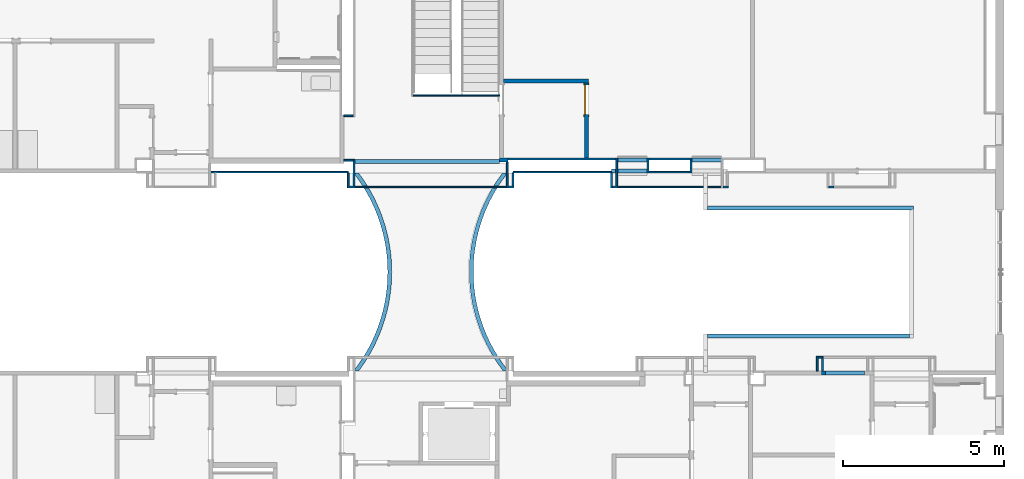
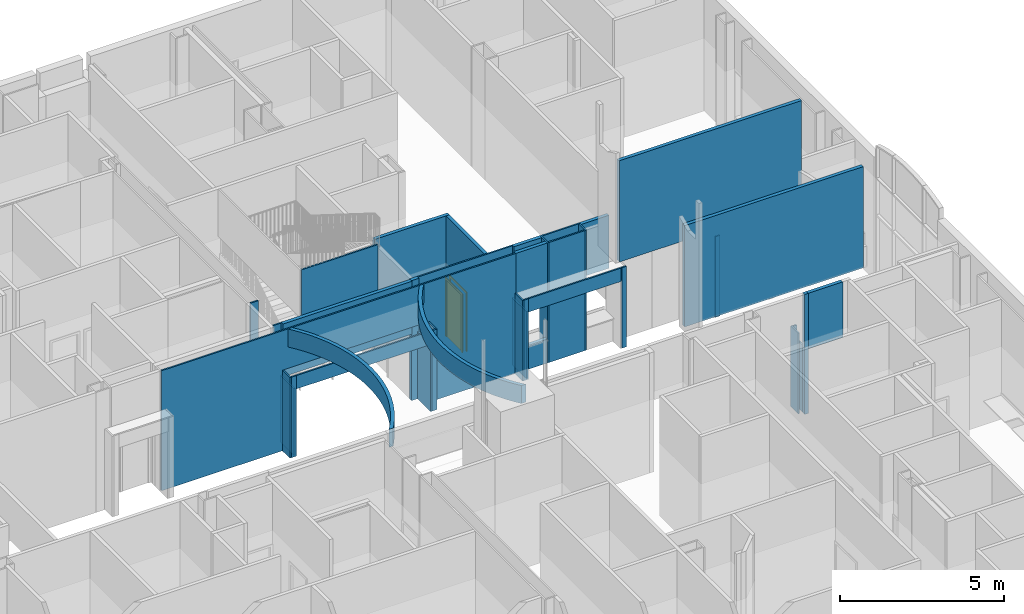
# One storey, part 37 of 87: 39 walls, 1 door, 2 openings.
"""IFC2X3 building model written with IfcOpenShell, lengths in metres."""

import ifcopenshell
import ifcopenshell.guid

model = None  # the IFC model being written
_history = None  # IfcOwnerHistory: only IFC2X3 demands one
_inside = {}  # id of a spatial element -> (the spatial element, [elements in it])
_under = {}  # id of a project, library or spatial element -> (it, [spatial elements below it])
_declared = {}  # id of a project -> (the project, [libraries it declares])
_typed = {}  # id of a type object -> (the type object, [elements of that type])
_made_of = {}  # id of a material, layer set ... -> (it, [elements and type objects made of it])


def new_model(schema):
    """Start an empty IFC model of exactly this schema.

    Asked for "IFC4X3", IfcOpenShell would pick the latest addendum, in which some entities
    have other attributes; the version numbers below select the first issue.
    IFC2X3 requires an IfcOwnerHistory on every rooted entity: one is made here for all.
    """
    global model, _history
    if schema == "IFC4X3":
        model = ifcopenshell.file(schema_version=(4, 3, 0, 0))
    else:
        model = ifcopenshell.file(schema=schema)
    _inside.clear()
    _under.clear()
    _declared.clear()
    _typed.clear()
    _made_of.clear()
    _history = None
    if model.schema == "IFC2X3":
        org = make("IfcOrganization", Name="unknown")
        user = make(
            "IfcPersonAndOrganization",
            ThePerson=make("IfcPerson", FamilyName="unknown"),
            TheOrganization=org,
        )
        app = make(
            "IfcApplication",
            ApplicationDeveloper=org,
            Version="unknown",
            ApplicationFullName="unknown",
            ApplicationIdentifier="unknown",
        )
        _history = make(
            "IfcOwnerHistory",
            OwningUser=user,
            OwningApplication=app,
            ChangeAction="ADDED",
            CreationDate=0,
        )
    return model


def make(cls, **values):
    """One entity of the class cls with the attributes given. An attribute that is None is left unset."""
    return model.create_entity(
        cls, **{name: value for name, value in values.items() if value is not None}
    )


def entity(cls, *values):
    """Any entity or typed value of the class cls, its attributes in the order of the schema. None: left unset."""
    e = model.create_entity(cls)
    for i, value in enumerate(values):
        if value is not None:
            e[i] = value
    return e


def rooted(cls, **values):
    """An entity with a GlobalId (a new one), such as an element, a storey or a relation."""
    return make(cls, GlobalId=ifcopenshell.guid.new(), OwnerHistory=_history, **values)


def si_unit(unit_type, name, prefix=None):
    """IfcSIUnit, for example si_unit("LENGTHUNIT", "METRE", prefix="MILLI")."""
    return make("IfcSIUnit", UnitType=unit_type, Prefix=prefix, Name=name)


def converted_unit(unit_type, name, factor, base, dimensions=None, offset=None):
    """IfcConversionBasedUnit, such as the inch: factor (a typed value) times the base unit."""
    return make(
        "IfcConversionBasedUnit"
        if offset is None
        else "IfcConversionBasedUnitWithOffset",
        ConversionOffset=offset,
        Dimensions=None
        if dimensions is None
        else entity("IfcDimensionalExponents", *dimensions),
        UnitType=unit_type,
        Name=name,
        ConversionFactor=make(
            "IfcMeasureWithUnit", ValueComponent=factor, UnitComponent=base
        ),
    )


def assignment(units):
    """IfcUnitAssignment: the units of a project."""
    return None if units is None else make("IfcUnitAssignment", Units=units)


def point(xyz):
    """IfcCartesianPoint."""
    return None if xyz is None else make("IfcCartesianPoint", Coordinates=xyz)


def direction(xyz):
    """IfcDirection."""
    return None if xyz is None else make("IfcDirection", DirectionRatios=xyz)


def frame(location, z_axis=None, x_axis=None):
    """IfcAxis2Placement3D, a coordinate frame: its origin and axes. An axis left out is left unset."""
    return make(
        "IfcAxis2Placement3D",
        Location=point(location),
        Axis=direction(z_axis),
        RefDirection=direction(x_axis),
    )


def frame_2d(location, x_axis=None):
    """IfcAxis2Placement2D, a coordinate frame in the plane: its origin and x axis."""
    return make(
        "IfcAxis2Placement2D", Location=point(location), RefDirection=direction(x_axis)
    )


def origin():
    """The frame at (0, 0, 0) with its axes left unset."""
    return frame((0.0, 0.0, 0.0))


def origin_2d_with_axis():
    """The frame at (0, 0) in the plane with the x axis (1, 0) written out."""
    return frame_2d((0.0, 0.0), x_axis=(1.0, 0.0))


def place(relative_to, where):
    """IfcLocalPlacement: puts the frame where relative to a parent placement (None: the world)."""
    return make(
        "IfcLocalPlacement", PlacementRelTo=relative_to, RelativePlacement=where
    )


def context(
    kind, dimensions, precision=None, world=None, true_north=None, identifier=None
):
    """IfcGeometricRepresentationContext, for example the 3D "Model" context."""
    return make(
        "IfcGeometricRepresentationContext",
        ContextIdentifier=identifier,
        ContextType=kind,
        CoordinateSpaceDimension=dimensions,
        Precision=precision,
        WorldCoordinateSystem=world,
        TrueNorth=true_north,
    )


def project(units=None, contexts=None):
    """IfcProject with its units and contexts."""
    return rooted(
        "IfcProject",
        Name="project",
        RepresentationContexts=contexts,
        UnitsInContext=assignment(units),
    )


def spatial(cls, under=None, at=None, **own):
    """A site, building, storey or space (cls), placed at a placement, below another one or the project."""
    s = rooted(cls, ObjectPlacement=at, **own)
    if under is not None:
        _under.setdefault(under.id(), (under, []))[1].append(s)
    return s


def polyline(points):
    """IfcPolyline through the points."""
    return make("IfcPolyline", Points=[point(p) for p in points])


def circle_curve(where, radius):
    """IfcCircle in the frame where."""
    return make("IfcCircle", Position=where, Radius=radius)


def parameter(value):
    """IfcParameterValue: where a trimmed curve begins or ends, as a parameter of its basis curve."""
    return model.create_entity("IfcParameterValue", value)


def trimmed(basis, trim1, trim2, sense, master):
    """IfcTrimmedCurve: the piece of a basis curve between two trims."""
    return make(
        "IfcTrimmedCurve",
        BasisCurve=basis,
        Trim1=trim1,
        Trim2=trim2,
        SenseAgreement=sense,
        MasterRepresentation=master,
    )


def segment(curve, same_sense, transition):
    """IfcCompositeCurveSegment."""
    return make(
        "IfcCompositeCurveSegment",
        Transition=transition,
        SameSense=same_sense,
        ParentCurve=curve,
    )


def composite_curve(segments, self_intersect=None):
    """IfcCompositeCurve: segments joined end to end."""
    return make("IfcCompositeCurve", Segments=segments, SelfIntersect=self_intersect)


def profile(cls, at=None, kind="AREA", **sizes):
    """A parametric profile (cls). Its sizes go by their IFC names, for example OverallWidth=200.0."""
    return make(cls, ProfileType=kind, Position=at, **sizes)


def rectangle(**sizes):
    """IfcRectangleProfileDef."""
    return profile("IfcRectangleProfileDef", **sizes)


def outline(outer, holes=None, kind="AREA"):
    """IfcArbitraryClosedProfileDef: a profile drawn as a closed curve; with holes, ...WithVoids."""
    if holes is None:
        return make("IfcArbitraryClosedProfileDef", ProfileType=kind, OuterCurve=outer)
    return make(
        "IfcArbitraryProfileDefWithVoids",
        ProfileType=kind,
        OuterCurve=outer,
        InnerCurves=holes,
    )


def extrude(swept, where, along, depth):
    """IfcExtrudedAreaSolid: the profile swept, set in the frame where, extruded along a direction by depth."""
    return make(
        "IfcExtrudedAreaSolid",
        SweptArea=swept,
        Position=where,
        ExtrudedDirection=direction(along),
        Depth=depth,
    )


def clip(a, b, op="DIFFERENCE"):
    """IfcBooleanClippingResult: the solid a cut by the half space b."""
    return make(
        "IfcBooleanClippingResult", Operator=op, FirstOperand=a, SecondOperand=b
    )


def halfspace(plane, agree):
    """IfcHalfSpaceSolid: all space on one side of the plane z = 0 of the frame plane."""
    return make(
        "IfcHalfSpaceSolid",
        BaseSurface=make("IfcPlane", Position=plane),
        AgreementFlag=agree,
    )


def shape(context_of_items, identifier, shape_type, items):
    """IfcShapeRepresentation: the items that make up one representation, for example the "Body"."""
    return make(
        "IfcShapeRepresentation",
        ContextOfItems=context_of_items,
        RepresentationIdentifier=identifier,
        RepresentationType=shape_type,
        Items=items,
    )


def source(mapping_origin, context_of_items, identifier, shape_type, items):
    """IfcRepresentationMap: a shape defined once, which mapped items show again and again."""
    return make(
        "IfcRepresentationMap",
        MappingOrigin=mapping_origin,
        MappedRepresentation=shape(context_of_items, identifier, shape_type, items),
    )


def transform(
    local_origin,
    x_axis=None,
    y_axis=None,
    z_axis=None,
    scale=None,
    scale2=None,
    scale3=None,
    uniform=True,
):
    """IfcCartesianTransformationOperator3D, or its non-uniform kind. x_axis, y_axis, z_axis: its Axis1, 2, 3."""
    if uniform:
        return make(
            "IfcCartesianTransformationOperator3D",
            Axis1=direction(x_axis),
            Axis2=direction(y_axis),
            LocalOrigin=point(local_origin),
            Scale=scale,
            Axis3=direction(z_axis),
        )
    return make(
        "IfcCartesianTransformationOperator3DnonUniform",
        Axis1=direction(x_axis),
        Axis2=direction(y_axis),
        LocalOrigin=point(local_origin),
        Scale=scale,
        Axis3=direction(z_axis),
        Scale2=scale2,
        Scale3=scale3,
    )


def mapped(mapping_source, mapping_target):
    """IfcMappedItem: shows the shape of a source again, moved by a transform."""
    return make(
        "IfcMappedItem", MappingSource=mapping_source, MappingTarget=mapping_target
    )


def material(Name=None, Category=None):
    """IfcMaterial."""
    return make("IfcMaterial", Name=Name, Category=Category)


def layer(
    of_material, thickness, ventilated=None, Name=None, Category=None, Priority=None
):
    """IfcMaterialLayer: one layer of a wall or slab, of a material (None: an air gap)."""
    return make(
        "IfcMaterialLayer",
        Material=of_material,
        LayerThickness=thickness,
        IsVentilated=ventilated,
        Name=Name,
        Category=Category,
        Priority=Priority,
    )


def layer_set(layers, Name=None):
    """IfcMaterialLayerSet."""
    return make("IfcMaterialLayerSet", MaterialLayers=layers, LayerSetName=Name)


def layer_usage(for_layer_set, set_direction, sense, offset, extent=None):
    """IfcMaterialLayerSetUsage: how a layer set lies in its element."""
    return make(
        "IfcMaterialLayerSetUsage",
        ForLayerSet=for_layer_set,
        LayerSetDirection=set_direction,
        DirectionSense=sense,
        OffsetFromReferenceLine=offset,
        ReferenceExtent=extent,
    )


def made_of(thing, what):
    """Note that an element or type object is made of a material, layer set ...; save() writes the relation."""
    if what is not None:
        _made_of.setdefault(what.id(), (what, []))[1].append(thing)
    return thing


def type_object(cls, material=None, **own):
    """A type object (cls), such as IfcWallType, which elements share."""
    return made_of(rooted(cls, **own), material)


def type_shapes(of_type, sources):
    """Give a type object the sources (RepresentationMaps) that its elements show as mapped items."""
    of_type.RepresentationMaps = sources


def element(
    cls,
    number,
    at=None,
    inside=None,
    cuts=None,
    type_object=None,
    material=None,
    context=None,
    identifier="Body",
    shape_type=None,
    held_by="IfcProductDefinitionShape",
    body=None,
    shapes=None,
    **own,
):
    """One element of the class cls, such as IfcWall. Its Tag is "e" and its number.

    at: its placement. inside: the storey or other place that contains it. cuts: it is an
    opening in that element (IfcRelVoidsElement). A single representation is given by context,
    identifier, shape_type and body (its items); several are given by shapes. held_by: the class
    of the entity that holds the representations. save() writes the other relations.
    """
    e = rooted(cls, Tag="e%d" % number, ObjectPlacement=at, **own)
    if body is not None:
        shapes = [shape(context, identifier, shape_type, body)]
    if shapes is not None:
        e.Representation = make(held_by, Representations=shapes)
    if inside is not None:
        _inside.setdefault(inside.id(), (inside, []))[1].append(e)
    if cuts is not None:
        rooted(
            "IfcRelVoidsElement", RelatingBuildingElement=cuts, RelatedOpeningElement=e
        )
    if type_object is not None:
        _typed.setdefault(type_object.id(), (type_object, []))[1].append(e)
    return made_of(e, material)


def fill(opening, filler):
    """IfcRelFillsElement: the door or window that sits in an opening."""
    return rooted(
        "IfcRelFillsElement",
        RelatingOpeningElement=opening,
        RelatedBuildingElement=filler,
    )


def aggregate(whole, parts):
    """IfcRelAggregates: a whole, such as a stair, and the parts it consists of."""
    return rooted("IfcRelAggregates", RelatingObject=whole, RelatedObjects=parts)


def save(model, path):
    """Write the relations noted so far, then the file.

    IfcRelAggregates (storeys below a building ...), IfcRelContainedInSpatialStructure (elements
    in a storey), IfcRelDefinesByType, IfcRelAssociatesMaterial and IfcRelDeclares: one each for
    every whole, place, type object, material and project.
    """
    for whole, parts in _under.values():
        aggregate(whole, parts)
    for where, things in _inside.values():
        rooted(
            "IfcRelContainedInSpatialStructure",
            RelatedElements=things,
            RelatingStructure=where,
        )
    for kind, things in _typed.values():
        rooted("IfcRelDefinesByType", RelatedObjects=things, RelatingType=kind)
    for what, things in _made_of.values():
        rooted("IfcRelAssociatesMaterial", RelatedObjects=things, RelatingMaterial=what)
    for by, libraries in _declared.values():
        rooted("IfcRelDeclares", RelatingContext=by, RelatedDefinitions=libraries)
    model.write(path)


model = new_model("IFC2X3")

# Units and contexts
model_context = context("Model", 3, precision=1e-09, world=origin())
plan_context = context("Plan", 3, precision=1e-09, world=origin())
ifc_project = project(units=[si_unit("LENGTHUNIT", "METRE"), si_unit("AREAUNIT", "SQUARE_METRE"), si_unit("VOLUMEUNIT", "CUBIC_METRE"), converted_unit("PLANEANGLEUNIT", "DEGREE", entity("IfcRatioMeasure", 0.01745329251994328), si_unit("PLANEANGLEUNIT", "RADIAN"), dimensions=[0, 0, 0, 0, 0, 0, 0]), si_unit("TIMEUNIT", "SECOND")], contexts=[model_context, plan_context])

# Site, building, storey
site_placement = place(None, origin())
site = spatial("IfcSite", under=ifc_project, at=site_placement, Name="Default", CompositionType="ELEMENT")
building_placement = place(site_placement, origin())
building = spatial("IfcBuilding", under=site, at=building_placement, CompositionType="ELEMENT")
storey_placement = place(building_placement, origin())
storey = spatial("IfcBuildingStorey", under=building, at=storey_placement, Name="First Floor", CompositionType="ELEMENT", Elevation=-3.531500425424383e-13)

# Walls
ifc_material_1 = material(Name="Metal - Stud Layer")
ifc_layer_1 = layer(ifc_material_1, 0.038)
ifc_material_2 = material(Name="Plasterboard")
ifc_layer_2 = layer(ifc_material_2, 0.016)
ifc_layer_set_1 = layer_set([ifc_layer_1, ifc_layer_2], Name="Basic Wall:Interior - Furring (38 mm Stud)")
ifc_layer_usage_1 = layer_usage(ifc_layer_set_1, "AXIS2", "POSITIVE", -0.027)
wall_1_placement = place(storey_placement, frame((-10.7030000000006, 34.77999999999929, 0.0), z_axis=(0.0, 0.0, 1.0), x_axis=(0.0, 1.0, 0.0)))
element("IfcWallStandardCase", 1, at=wall_1_placement, inside=storey, material=ifc_layer_usage_1, Name="Basic Wall:Interior - Furring (38 mm Stud)", ObjectType="Basic Wall:Interior - Furring (38 mm Stud)", context=model_context, shape_type="SweptSolid", body=[
    extrude(rectangle(XDim=0.4599999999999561, YDim=0.05400000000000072, at=frame_2d((0.229999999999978, 0.0), x_axis=(-1.0, 0.0))), origin(), (0.0, 0.0, 1.0), 4.46800000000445),
])
ifc_layer_usage_2 = layer_usage(ifc_layer_set_1, "AXIS2", "POSITIVE", -0.027)
wall_2_placement = place(storey_placement, frame((-10.6760000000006, 35.21299999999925, 0.0)))
element("IfcWallStandardCase", 2, at=wall_2_placement, inside=storey, material=ifc_layer_usage_2, Name="Basic Wall:Interior - Furring (38 mm Stud)", ObjectType="Basic Wall:Interior - Furring (38 mm Stud)", context=model_context, shape_type="SweptSolid", body=[
    extrude(rectangle(XDim=1.336000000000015, YDim=0.05399999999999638, at=frame_2d((0.6680000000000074, 0.0), x_axis=(-1.0, 0.0))), origin(), (0.0, 0.0, 1.0), 4.46800000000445),
])
ifc_layer_usage_3 = layer_usage(ifc_layer_set_1, "AXIS2", "POSITIVE", -0.027)
wall_3_placement = place(storey_placement, frame((-9.367000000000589, 35.18599999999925, 0.0), z_axis=(0.0, 0.0, 1.0), x_axis=(0.0, -1.0, 0.0)))
element("IfcWallStandardCase", 3, at=wall_3_placement, inside=storey, material=ifc_layer_usage_3, Name="Basic Wall:Interior - Furring (38 mm Stud)", ObjectType="Basic Wall:Interior - Furring (38 mm Stud)", context=model_context, shape_type="SweptSolid", body=[
    extrude(rectangle(XDim=0.4059999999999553, YDim=0.05400000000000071, at=frame_2d((0.2029999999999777, 0.0), x_axis=(-1.0, 0.0))), origin(), (0.0, 0.0, 1.0), 4.46800000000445),
])
ifc_layer_usage_4 = layer_usage(ifc_layer_set_1, "AXIS2", "POSITIVE", -0.027)
wall_4_placement = place(storey_placement, frame((-9.39400000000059, 34.80699999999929, 0.0), z_axis=(0.0, 0.0, 1.0), x_axis=(-1.0, 0.0, 0.0)))
element("IfcWallStandardCase", 4, at=wall_4_placement, inside=storey, material=ifc_layer_usage_4, Name="Basic Wall:Interior - Furring (38 mm Stud)", ObjectType="Basic Wall:Interior - Furring (38 mm Stud)", context=model_context, shape_type="SweptSolid", body=[
    extrude(rectangle(XDim=1.282000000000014, YDim=0.05399999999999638, at=frame_2d((0.641000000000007, 0.0), x_axis=(-1.0, 0.0))), origin(), (0.0, 0.0, 1.0), 4.46800000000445),
])
ifc_layer_3 = layer(ifc_material_2, 0.016)
ifc_layer_4 = layer(ifc_material_1, 0.092)
ifc_layer_5 = layer(ifc_material_2, 0.016)
ifc_layer_set_2 = layer_set([ifc_layer_3, ifc_layer_4, ifc_layer_5], Name="Basic Wall:Interior - Partition (92mm Stud)")
ifc_layer_usage_5 = layer_usage(ifc_layer_set_2, "AXIS2", "NEGATIVE", 0.062)
wall_5_placement = place(storey_placement, frame((-15.05597500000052, 35.17799999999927, 0.0), z_axis=(0.0, 0.0, 1.0), x_axis=(-1.0, 0.0, 0.0)))
element("IfcWallStandardCase", 5, at=wall_5_placement, inside=storey, material=ifc_layer_usage_5, Name="Basic Wall:Interior - Partition (92mm Stud)", ObjectType="Basic Wall:Interior - Partition (92mm Stud)", context=model_context, shape_type="SweptSolid", body=[
    extrude(rectangle(XDim=0.2640250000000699, YDim=0.1240000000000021, at=frame_2d((0.132012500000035, 0.0), x_axis=(-1.0, 0.0))), origin(), (0.0, 0.0, 1.0), 4.468000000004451),
])
ifc_layer_usage_6 = layer_usage(ifc_layer_set_2, "AXIS2", "NEGATIVE", 0.062)
wall_6_placement = place(storey_placement, frame((-15.19600000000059, 37.63799999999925, 0.0)))
element("IfcWallStandardCase", 6, at=wall_6_placement, inside=storey, material=ifc_layer_usage_6, Name="Basic Wall:Interior - Partition (92mm Stud)", ObjectType="Basic Wall:Interior - Partition (92mm Stud)", context=model_context, shape_type="SweptSolid", body=[
    extrude(rectangle(XDim=2.635999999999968, YDim=0.1239999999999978, at=frame_2d((1.317999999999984, 0.0), x_axis=(-1.0, 0.0))), origin(), (0.0, 0.0, 1.0), 4.468000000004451),
])

# Wall, opening, door
ifc_layer_usage_7 = layer_usage(ifc_layer_set_2, "AXIS2", "NEGATIVE", 0.062)
wall_7_placement = place(storey_placement, frame((-12.62200000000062, 37.57599999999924, 0.0), z_axis=(0.0, 0.0, 1.0), x_axis=(0.0, -1.0, 0.0)))
wall_7 = element("IfcWallStandardCase", 7, at=wall_7_placement, inside=storey, material=ifc_layer_usage_7, Name="Basic Wall:Interior - Partition (92mm Stud)", ObjectType="Basic Wall:Interior - Partition (92mm Stud)", context=model_context, shape_type="SweptSolid", body=[
    extrude(rectangle(XDim=2.33599999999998, YDim=0.1240000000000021, at=frame_2d((1.16799999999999, 0.0), x_axis=(-1.0, 0.0))), origin(), (0.0, 0.0, 1.0), 4.46800000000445),
])
opening_1_placement = place(wall_7_placement, frame((0.9749999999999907, 0.0619999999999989, 0.0)))
opening_1 = element("IfcOpeningElement", 8, at=opening_1_placement, cuts=wall_7, Name="M_Single-Flush:0915 x 2134mm:0915 x 2134mm:1", ObjectType="Opening", context=model_context, shape_type="SweptSolid", body=[
    extrude(rectangle(XDim=0.9149999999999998, YDim=2.134, at=frame_2d((1.067, 0.4575), x_axis=(0.0, 1.0))), frame((0.0, 0.0, 0.0), z_axis=(0.0, -1.0, 0.0), x_axis=(0.0, 0.0, 1.0)), (0.0, 0.0, 1.0), 0.124),
])
door_style = type_object("IfcDoorStyle", Name="0915 x 2134mm", ConstructionType="NOTDEFINED", OperationType="SINGLE_SWING_RIGHT", ParameterTakesPrecedence=False, Sizeable=False)
shared_shape = source(origin(), model_context, "Body", "SweptSolid", [
    extrude(outline(polyline([(-0.5335, -1.123999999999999), (0.5334999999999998, -1.123999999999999), (0.5334999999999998, 1.086), (0.4574999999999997, 1.086), (0.4574999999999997, -1.048000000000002), (-0.4574999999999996, -1.048000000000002), (-0.4574999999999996, 1.086), (-0.5335, 1.086), (-0.5335, -1.123999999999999)])), frame((0.4575000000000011, 0.1239999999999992, 1.086), z_axis=(0.0, 1.0, 0.0), x_axis=(1.0, 0.0, 0.0)), (0.0, 0.0, 1.0), 0.02499999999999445),
    extrude(outline(polyline([(-1.123999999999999, -0.5334999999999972), (1.085999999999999, -0.5334999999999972), (1.085999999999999, -0.4575000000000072), (-1.048, -0.4575000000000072), (-1.048, 0.4575000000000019), (1.085999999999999, 0.4575000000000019), (1.085999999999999, 0.5335000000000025), (-1.123999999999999, 0.5335000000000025), (-1.123999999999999, -0.5334999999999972)])), frame((0.4575000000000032, -0.02500000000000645, 1.085999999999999), z_axis=(0.0, 1.0, 0.0), x_axis=(0.0, 0.0, -1.0)), (0.0, 0.0, 1.0), 0.02500000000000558),
    extrude(rectangle(XDim=0.051, YDim=0.9149999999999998, at=origin_2d_with_axis()), frame((0.4575000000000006, 0.09849999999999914, 0.0), z_axis=(0.0, 0.0, 1.0), x_axis=(0.0, 1.0, 0.0)), (0.0, 0.0, 1.0), 2.133999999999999),
])
type_shapes(door_style, [shared_shape])
door_placement = place(opening_1_placement, frame((0.0, 0.0, 0.0), z_axis=(0.0, 0.0, 1.0), x_axis=(-1.0, 0.0, 0.0)))
door = element("IfcDoor", 9, at=door_placement, inside=storey, type_object=door_style, Name="M_Single-Flush:0915 x 2134mm:0915 x 2134mm", ObjectType="0915 x 2134mm", OverallHeight=2.134, OverallWidth=0.9149999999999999, context=model_context, shape_type="MappedRepresentation", body=[
    mapped(shared_shape, transform((0.0, 0.0, 0.0), scale=1.0)),
])
fill(opening_1, door)

# Walls
ifc_layer_usage_8 = layer_usage(ifc_layer_set_1, "AXIS2", "POSITIVE", -0.027)
wall_8_placement = place(storey_placement, frame((-5.270722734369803, 29.06999999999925, 0.0), z_axis=(0.0, 0.0, 1.0), x_axis=(0.0, -1.0, 0.0)))
element("IfcWallStandardCase", 10, at=wall_8_placement, inside=storey, material=ifc_layer_usage_8, Name="Basic Wall:Interior - Furring (38 mm Stud)", ObjectType="Basic Wall:Interior - Furring (38 mm Stud)", context=model_context, shape_type="SweptSolid", body=[
    extrude(rectangle(XDim=0.4600000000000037, YDim=0.05400000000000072, at=frame_2d((0.2300000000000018, 0.0), x_axis=(-1.0, 0.0))), origin(), (0.0, 0.0, 1.0), 2.5),
])
ifc_layer_usage_9 = layer_usage(ifc_layer_set_2, "AXIS2", "NEGATIVE", 0.062)
wall_9_placement = place(storey_placement, frame((-5.297722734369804, 28.54799999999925, 0.0)))
element("IfcWallStandardCase", 11, at=wall_9_placement, inside=storey, material=ifc_layer_usage_9, Name="Basic Wall:Interior - Partition (92mm Stud)", ObjectType="Basic Wall:Interior - Partition (92mm Stud)", context=model_context, shape_type="SweptSolid", body=[
    extrude(rectangle(XDim=0.1258700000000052, YDim=0.1240000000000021, at=frame_2d((0.06293500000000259, 0.0), x_axis=(-1.0, 0.0))), origin(), (0.0, 0.0, 1.0), 4.46800000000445),
])
ifc_layer_usage_10 = layer_usage(ifc_layer_set_1, "AXIS2", "POSITIVE", -0.027)
wall_10_placement = place(storey_placement, frame((-5.431722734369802, 28.60999999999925, 0.0), z_axis=(0.0, 0.0, 1.0), x_axis=(0.0, 1.0, 0.0)))
element("IfcWallStandardCase", 12, at=wall_10_placement, inside=storey, material=ifc_layer_usage_10, Name="Basic Wall:Interior - Furring (38 mm Stud)", ObjectType="Basic Wall:Interior - Furring (38 mm Stud)", context=model_context, shape_type="SweptSolid", body=[
    extrude(rectangle(XDim=0.4600000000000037, YDim=0.05400000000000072, at=frame_2d((0.2300000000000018, 0.0), x_axis=(-1.0, 0.0))), origin(), (0.0, 0.0, 1.0), 3.0),
])
ifc_layer_usage_11 = layer_usage(ifc_layer_set_2, "AXIS2", "NEGATIVE", 0.062)
wall_11_placement = place(storey_placement, frame((-2.436000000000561, 33.69199999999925, 3.8), z_axis=(0.0, 0.0, 1.0), x_axis=(-1.0, 0.0, 0.0)))
element("IfcWallStandardCase", 13, at=wall_11_placement, inside=storey, material=ifc_layer_usage_11, Name="Basic Wall:Interior - Partition (92mm Stud)", ObjectType="Basic Wall:Interior - Partition (92mm Stud)", context=model_context, shape_type="SweptSolid", body=[
    extrude(rectangle(XDim=6.421726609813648, YDim=0.1240000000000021, at=frame_2d((3.210863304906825, 0.0), x_axis=(-1.0, 0.0))), origin(), (0.0, 0.0, 1.0), 3.77000000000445),
])
ifc_layer_usage_12 = layer_usage(ifc_layer_set_2, "AXIS2", "NEGATIVE", 0.062)
wall_12_placement = place(storey_placement, frame((-19.85700000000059, 35.14399999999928, 2.5)))
element("IfcWallStandardCase", 14, at=wall_12_placement, inside=storey, material=ifc_layer_usage_12, Name="Basic Wall:Interior - Partition (92mm Stud)", ObjectType="Basic Wall:Interior - Partition (92mm Stud)", context=model_context, shape_type="SweptSolid", body=[
    extrude(rectangle(XDim=4.537000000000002, YDim=0.1239999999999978, at=frame_2d((2.268500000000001, 0.0), x_axis=(-1.0, 0.0))), origin(), (0.0, 0.0, 1.0), 1.968000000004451),
])
ifc_layer_usage_13 = layer_usage(ifc_layer_set_2, "AXIS2", "NEGATIVE", 0.062)
wall_13_placement = place(storey_placement, frame((-11.71200000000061, 35.17799999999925, 3.0)))
element("IfcWallStandardCase", 15, at=wall_13_placement, inside=storey, material=ifc_layer_usage_13, Name="Basic Wall:Interior - Partition (92mm Stud)", ObjectType="Basic Wall:Interior - Partition (92mm Stud)", context=model_context, shape_type="SweptSolid", body=[
    extrude(rectangle(XDim=0.9820000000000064, YDim=0.1239999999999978, at=frame_2d((0.4910000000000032, 0.0), x_axis=(-1.0, 0.0))), origin(), (0.0, 0.0, 1.0), 1.46800000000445),
])
ifc_layer_usage_14 = layer_usage(ifc_layer_set_2, "AXIS2", "NEGATIVE", 0.062)
wall_14_placement = place(storey_placement, frame((-9.340000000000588, 35.17799999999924, 2.5)))
element("IfcWallStandardCase", 16, at=wall_14_placement, inside=storey, material=ifc_layer_usage_14, Name="Basic Wall:Interior - Partition (92mm Stud)", ObjectType="Basic Wall:Interior - Partition (92mm Stud)", context=model_context, shape_type="SweptSolid", body=[
    extrude(rectangle(XDim=0.9820000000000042, YDim=0.1239999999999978, at=frame_2d((0.4910000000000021, 0.0), x_axis=(-1.0, 0.0))), origin(), (0.0, 0.0, 1.0), 1.96800000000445),
])
ifc_layer_usage_15 = layer_usage(ifc_layer_set_2, "AXIS2", "NEGATIVE", 0.062)
wall_15_placement = place(storey_placement, frame((-3.956852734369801, 28.54799999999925, 2.4), z_axis=(0.0, 0.0, 1.0), x_axis=(-1.0, 0.0, 0.0)))
element("IfcWallStandardCase", 17, at=wall_15_placement, inside=storey, material=ifc_layer_usage_15, Name="Basic Wall:Interior - Partition (92mm Stud)", ObjectType="Basic Wall:Interior - Partition (92mm Stud)", context=model_context, shape_type="SweptSolid", body=[
    extrude(rectangle(XDim=1.214999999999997, YDim=0.1239999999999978, at=frame_2d((0.6074999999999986, 0.0), x_axis=(-1.0, 0.0))), origin(), (0.0, 0.0, 1.0), 2.06800000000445),
])
ifc_layer_usage_16 = layer_usage(ifc_layer_set_2, "AXIS2", "NEGATIVE", 0.062)
wall_16_placement = place(storey_placement, frame((-15.12030208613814, 34.81853822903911, 3.8)))
element("IfcWallStandardCase", 18, at=wall_16_placement, inside=storey, material=ifc_layer_usage_16, Name="Basic Wall:Interior - Partition (92mm Stud)", ObjectType="Basic Wall:Interior - Partition (92mm Stud)", context=model_context, shape_type="SweptSolid", body=[
    extrude(outline(composite_curve([segment(trimmed(circle_curve(frame_2d((3.91471628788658, -3.106318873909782), x_axis=(1.0, 0.0)), 4.935421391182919), [parameter(141.5680761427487)], [parameter(218.9441241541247)], True, "PARAMETER"), False, "CONTINUOUS"), segment(polyline([(0.04856752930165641, -0.03853822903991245), (-0.1085245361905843, -0.03853822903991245)]), True, "CONTINUOUS"), segment(trimmed(circle_curve(frame_2d((3.91471628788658, -3.106318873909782), x_axis=(1.0, 0.0)), 5.059421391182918), [parameter(142.6739435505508)], [parameter(217.8181222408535)], True, "PARAMETER"), True, "CONTINUOUS"), segment(polyline([(-0.0820298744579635, -6.208538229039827), (0.07614632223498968, -6.208538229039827)]), True, "CONTINUOUS")], self_intersect=False)), origin(), (0.0, 0.0, 1.0), 0.6680000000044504),
])
ifc_layer_usage_17 = layer_usage(ifc_layer_set_2, "AXIS2", "NEGATIVE", 0.062)
wall_17_placement = place(storey_placement, frame((-19.8235187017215, 28.57165564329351, 3.8)))
element("IfcWallStandardCase", 19, at=wall_17_placement, inside=storey, material=ifc_layer_usage_17, Name="Basic Wall:Interior - Partition (92mm Stud)", ObjectType="Basic Wall:Interior - Partition (92mm Stud)", context=model_context, shape_type="SweptSolid", body=[
    extrude(outline(composite_curve([segment(trimmed(circle_curve(frame_2d((-3.971862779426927, 3.125948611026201), x_axis=(1.0, 0.0)), 4.992428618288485), [parameter(321.7964295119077)], [parameter(38.12754216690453)], True, "PARAMETER"), False, "CONTINUOUS"), segment(polyline([(-0.0487207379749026, 0.03834435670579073), (0.1079094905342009, 0.03834435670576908)]), True, "CONTINUOUS"), segment(trimmed(circle_curve(frame_2d((-3.971862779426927, 3.125948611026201), x_axis=(1.0, 0.0)), 5.116428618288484), [parameter(322.8812728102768)], [parameter(37.0456148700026)], True, "PARAMETER"), True, "CONTINUOUS"), segment(polyline([(0.1118461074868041, 6.208344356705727), (-0.0446271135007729, 6.208344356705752)]), True, "CONTINUOUS")], self_intersect=False)), origin(), (0.0, 0.0, 1.0), 0.6680000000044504),
])
ifc_layer_usage_18 = layer_usage(ifc_layer_set_2, "AXIS2", "NEGATIVE", 0.062)
wall_18_placement = place(storey_placement, frame((-10.7300000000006, 34.84199999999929, 0.8899999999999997), z_axis=(0.0, 0.0, 1.0), x_axis=(-1.0, 0.0, 0.0)))
element("IfcWallStandardCase", 20, at=wall_18_placement, inside=storey, material=ifc_layer_usage_18, Name="Basic Wall:Interior - Partition (92mm Stud)", ObjectType="Basic Wall:Interior - Partition (92mm Stud)", context=model_context, shape_type="Clipping", body=[
    clip(extrude(rectangle(XDim=1.108000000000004, YDim=0.1239999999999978, at=frame_2d((0.5540000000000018, 0.0), x_axis=(-1.0, 0.0))), origin(), (0.0, 0.0, 1.0), 3.578000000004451), halfspace(frame((1.081000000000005, -0.0619999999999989, 1.61), z_axis=(0.0, 0.0, -1.0), x_axis=(0.0, 1.0, 0.0)), False)),
])
ifc_layer_usage_19 = layer_usage(ifc_layer_set_1, "AXIS2", "POSITIVE", -0.027)
wall_19_placement = place(storey_placement, frame((-5.404722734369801, 29.04299999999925, 0.0)))
element("IfcWallStandardCase", 21, at=wall_19_placement, inside=storey, material=ifc_layer_usage_19, Name="Basic Wall:Interior - Furring (38 mm Stud)", ObjectType="Basic Wall:Interior - Furring (38 mm Stud)", context=model_context, shape_type="SweptSolid", body=[
    extrude(rectangle(XDim=0.1339999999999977, YDim=0.05399999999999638, at=frame_2d((0.06699999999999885, 0.0), x_axis=(-1.0, 0.0))), origin(), (0.0, 0.0, 1.0), 3.0),
])

# Wall, opening
ifc_layer_usage_20 = layer_usage(ifc_layer_set_1, "AXIS2", "NEGATIVE", 0.027)
wall_20_placement = place(storey_placement, frame((-24.31600000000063, 34.80699999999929, 0.0)))
wall_20 = element("IfcWallStandardCase", 22, at=wall_20_placement, inside=storey, material=ifc_layer_usage_20, Name="Basic Wall:Interior - Furring (38 mm Stud)", ObjectType="Basic Wall:Interior - Furring (38 mm Stud)", context=model_context, shape_type="SweptSolid", body=[
    extrude(rectangle(XDim=12.50500000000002, YDim=0.05399999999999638, at=frame_2d((6.25250000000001, 0.0), x_axis=(-1.0, 0.0))), origin(), (0.0, 0.0, 1.0), 4.468000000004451),
])
opening_2_placement = place(wall_20_placement, frame((6.848512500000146, 0.02699999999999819, 1.5)))
element("IfcOpeningElement", 23, at=opening_2_placement, cuts=wall_20, Name="Basic Wall:Interior - Furring (38 mm Stud):2", ObjectType="Opening", context=model_context, shape_type="SweptSolid", body=[
    extrude(rectangle(XDim=3.0, YDim=5.131024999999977, at=frame_2d((0.0, 0.0), x_axis=(0.0, 1.0))), frame((0.0, 0.0, 0.0), z_axis=(0.0, -1.0, 0.0), x_axis=(1.0, 0.0, 0.0)), (0.0, 0.0, 1.0), 0.05400000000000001),
])

# Walls
ifc_layer_usage_21 = layer_usage(ifc_layer_set_1, "AXIS2", "NEGATIVE", 0.027)
wall_21_placement = place(storey_placement, frame((-20.03300000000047, 34.77999999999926, 0.0), z_axis=(0.0, 0.0, 1.0), x_axis=(0.0, -1.0, 0.0)))
element("IfcWallStandardCase", 24, at=wall_21_placement, inside=storey, material=ifc_layer_usage_21, Name="Basic Wall:Interior - Furring (38 mm Stud)", ObjectType="Basic Wall:Interior - Furring (38 mm Stud)", context=model_context, shape_type="SweptSolid", body=[
    extrude(rectangle(XDim=0.4599980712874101, YDim=0.05399999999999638, at=frame_2d((0.2299990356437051, 0.0), x_axis=(-1.0, 0.0))), origin(), (0.0, 0.0, 1.0), 3.0),
])
ifc_layer_usage_22 = layer_usage(ifc_layer_set_1, "AXIS2", "NEGATIVE", 0.027)
wall_22_placement = place(storey_placement, frame((-20.00600000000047, 34.34700192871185, 0.0)))
element("IfcWallStandardCase", 25, at=wall_22_placement, inside=storey, material=ifc_layer_usage_22, Name="Basic Wall:Interior - Furring (38 mm Stud)", ObjectType="Basic Wall:Interior - Furring (38 mm Stud)", context=model_context, shape_type="SweptSolid", body=[
    extrude(rectangle(XDim=0.175999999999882, YDim=0.05399999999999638, at=frame_2d((0.08799999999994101, 0.0), x_axis=(-1.0, 0.0))), origin(), (0.0, 0.0, 1.0), 3.0),
])
ifc_layer_usage_23 = layer_usage(ifc_layer_set_1, "AXIS2", "NEGATIVE", 0.027)
wall_23_placement = place(storey_placement, frame((-19.85700000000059, 34.37400192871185, 0.0), z_axis=(0.0, 0.0, 1.0), x_axis=(0.0, 1.0, 0.0)))
element("IfcWallStandardCase", 26, at=wall_23_placement, inside=storey, material=ifc_layer_usage_23, Name="Basic Wall:Interior - Furring (38 mm Stud)", ObjectType="Basic Wall:Interior - Furring (38 mm Stud)", context=model_context, shape_type="SweptSolid", body=[
    extrude(rectangle(XDim=0.8319980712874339, YDim=0.05399999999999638, at=frame_2d((0.4159990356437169, 0.0), x_axis=(-1.0, 0.0))), origin(), (0.0, 0.0, 1.0), 2.5),
])
ifc_layer_usage_24 = layer_usage(ifc_layer_set_1, "AXIS2", "NEGATIVE", 0.027)
wall_24_placement = place(storey_placement, frame((-19.85700000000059, 35.17899999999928, 0.0), z_axis=(0.0, 0.0, 1.0), x_axis=(-1.0, 0.0, 0.0)))
element("IfcWallStandardCase", 27, at=wall_24_placement, inside=storey, material=ifc_layer_usage_24, Name="Basic Wall:Interior - Furring (38 mm Stud)", ObjectType="Basic Wall:Interior - Furring (38 mm Stud)", context=model_context, shape_type="SweptSolid", body=[
    extrude(rectangle(XDim=0.2820000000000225, YDim=0.05400000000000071, at=frame_2d((0.1680000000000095, 0.0), x_axis=(-1.0, 0.0))), origin(), (0.0, 0.0, 1.0), 4.46800000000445),
])
ifc_layer_usage_25 = layer_usage(ifc_layer_set_1, "AXIS2", "NEGATIVE", 0.027)
wall_25_placement = place(storey_placement, frame((-15.08297500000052, 35.11599999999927, 0.0), z_axis=(0.0, 0.0, 1.0), x_axis=(0.0, -1.0, 0.0)))
element("IfcWallStandardCase", 28, at=wall_25_placement, inside=storey, material=ifc_layer_usage_25, Name="Basic Wall:Interior - Furring (38 mm Stud)", ObjectType="Basic Wall:Interior - Furring (38 mm Stud)", context=model_context, shape_type="SweptSolid", body=[
    extrude(rectangle(XDim=0.7960000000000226, YDim=0.05400000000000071, at=frame_2d((0.3980000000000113, 0.0), x_axis=(-1.0, 0.0))), origin(), (0.0, 0.0, 1.0), 2.5),
])
ifc_layer_usage_26 = layer_usage(ifc_layer_set_1, "AXIS2", "NEGATIVE", 0.027)
wall_26_placement = place(storey_placement, frame((-15.08297500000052, 34.34699999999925, 0.0)))
element("IfcWallStandardCase", 29, at=wall_26_placement, inside=storey, material=ifc_layer_usage_26, Name="Basic Wall:Interior - Furring (38 mm Stud)", ObjectType="Basic Wall:Interior - Furring (38 mm Stud)", context=model_context, shape_type="SweptSolid", body=[
    extrude(rectangle(XDim=0.1810000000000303, YDim=0.05400000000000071, at=frame_2d((0.1175000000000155, 0.0), x_axis=(-1.0, 0.0))), origin(), (0.0, 0.0, 1.0), 3.0),
])
ifc_layer_usage_27 = layer_usage(ifc_layer_set_1, "AXIS2", "NEGATIVE", 0.027)
wall_27_placement = place(storey_placement, frame((-14.90197500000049, 34.37399999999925, 0.0), z_axis=(0.0, 0.0, 1.0), x_axis=(0.0, 1.0, 0.0)))
element("IfcWallStandardCase", 30, at=wall_27_placement, inside=storey, material=ifc_layer_usage_27, Name="Basic Wall:Interior - Furring (38 mm Stud)", ObjectType="Basic Wall:Interior - Furring (38 mm Stud)", context=model_context, shape_type="SweptSolid", body=[
    extrude(rectangle(XDim=0.4059999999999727, YDim=0.05400000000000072, at=frame_2d((0.2029999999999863, 0.0), x_axis=(-1.0, 0.0))), origin(), (0.0, 0.0, 1.0), 3.0),
])
ifc_layer_usage_28 = layer_usage(ifc_layer_set_1, "AXIS2", "NEGATIVE", 0.027)
wall_28_placement = place(storey_placement, frame((-11.83800000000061, 34.77999999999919, 0.0), z_axis=(0.0, 0.0, 1.0), x_axis=(0.0, -1.0, 0.0)))
element("IfcWallStandardCase", 31, at=wall_28_placement, inside=storey, material=ifc_layer_usage_28, Name="Basic Wall:Interior - Furring (38 mm Stud)", ObjectType="Basic Wall:Interior - Furring (38 mm Stud)", context=model_context, shape_type="SweptSolid", body=[
    extrude(rectangle(XDim=0.4600019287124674, YDim=0.05400000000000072, at=frame_2d((0.2300009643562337, 0.0), x_axis=(-1.0, 0.0))), origin(), (0.0, 0.0, 1.0), 3.0),
])
ifc_layer_usage_29 = layer_usage(ifc_layer_set_1, "AXIS2", "NEGATIVE", 0.027)
wall_29_placement = place(storey_placement, frame((-11.81100000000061, 34.34699807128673, 0.0)))
element("IfcWallStandardCase", 32, at=wall_29_placement, inside=storey, material=ifc_layer_usage_29, Name="Basic Wall:Interior - Furring (38 mm Stud)", ObjectType="Basic Wall:Interior - Furring (38 mm Stud)", context=model_context, shape_type="SweptSolid", body=[
    extrude(rectangle(XDim=0.1610000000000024, YDim=0.05399999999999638, at=frame_2d((0.0805000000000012, 0.0), x_axis=(-1.0, 0.0))), origin(), (0.0, 0.0, 1.0), 3.0),
])
ifc_layer_usage_30 = layer_usage(ifc_layer_set_1, "AXIS2", "NEGATIVE", 0.027)
wall_30_placement = place(storey_placement, frame((-11.67700000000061, 34.37399807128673, 0.0), z_axis=(0.0, 0.0, 1.0), x_axis=(0.0, 1.0, 0.0)))
element("IfcWallStandardCase", 33, at=wall_30_placement, inside=storey, material=ifc_layer_usage_30, Name="Basic Wall:Interior - Furring (38 mm Stud)", ObjectType="Basic Wall:Interior - Furring (38 mm Stud)", context=model_context, shape_type="SweptSolid", body=[
    extrude(rectangle(XDim=0.8660019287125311, YDim=0.05400000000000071, at=frame_2d((0.4330009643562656, 0.0), x_axis=(-1.0, 0.0))), origin(), (0.0, 0.0, 1.0), 2.5),
])
ifc_layer_usage_31 = layer_usage(ifc_layer_set_1, "AXIS2", "NEGATIVE", 0.027)
wall_31_placement = place(storey_placement, frame((-11.7040000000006, 35.21299999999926, 0.0), z_axis=(0.0, 0.0, 1.0), x_axis=(-1.0, 0.0, 0.0)))
element("IfcWallStandardCase", 34, at=wall_31_placement, inside=storey, material=ifc_layer_usage_31, Name="Basic Wall:Interior - Furring (38 mm Stud)", ObjectType="Basic Wall:Interior - Furring (38 mm Stud)", context=model_context, shape_type="SweptSolid", body=[
    extrude(rectangle(XDim=3.378974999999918, YDim=0.05399999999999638, at=frame_2d((1.689487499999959, 0.0), x_axis=(-1.0, 0.0))), origin(), (0.0, 0.0, 1.0), 4.468000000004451),
])
ifc_layer_usage_32 = layer_usage(ifc_layer_set_2, "AXIS2", "NEGATIVE", 0.062)
wall_32_placement = place(storey_placement, frame((-11.6500000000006, 34.8419999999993, 0.0)))
element("IfcWallStandardCase", 35, at=wall_32_placement, inside=storey, material=ifc_layer_usage_32, Name="Basic Wall:Interior - Partition (92mm Stud)", ObjectType="Basic Wall:Interior - Partition (92mm Stud)", context=model_context, shape_type="SweptSolid", body=[
    extrude(rectangle(XDim=0.920000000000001, YDim=0.1239999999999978, at=frame_2d((0.4600000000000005, 0.0), x_axis=(-1.0, 0.0))), origin(), (0.0, 0.0, 1.0), 0.8900000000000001),
])
ifc_layer_usage_33 = layer_usage(ifc_layer_set_1, "AXIS2", "NEGATIVE", 0.027)
wall_33_placement = place(storey_placement, frame((-8.393000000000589, 34.34699999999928, 0.0)))
element("IfcWallStandardCase", 36, at=wall_33_placement, inside=storey, material=ifc_layer_usage_33, Name="Basic Wall:Interior - Furring (38 mm Stud)", ObjectType="Basic Wall:Interior - Furring (38 mm Stud)", context=model_context, shape_type="SweptSolid", body=[
    extrude(rectangle(XDim=0.1610000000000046, YDim=0.05400000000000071, at=frame_2d((0.1075000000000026, 0.0), x_axis=(-1.0, 0.0))), origin(), (0.0, 0.0, 1.0), 3.0),
])
ifc_layer_usage_34 = layer_usage(ifc_layer_set_1, "AXIS2", "NEGATIVE", 0.027)
wall_34_placement = place(storey_placement, frame((-5.074500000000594, 34.34699999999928, 0.0)))
element("IfcWallStandardCase", 37, at=wall_34_placement, inside=storey, material=ifc_layer_usage_34, Name="Basic Wall:Interior - Furring (38 mm Stud)", ObjectType="Basic Wall:Interior - Furring (38 mm Stud)", context=model_context, shape_type="SweptSolid", body=[
    extrude(rectangle(XDim=0.1610000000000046, YDim=0.05399999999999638, at=frame_2d((0.08050000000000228, 0.0), x_axis=(-1.0, 0.0))), origin(), (0.0, 0.0, 1.0), 3.0),
])
ifc_layer_usage_35 = layer_usage(ifc_layer_set_1, "AXIS2", "NEGATIVE", 0.027)
wall_35_placement = place(storey_placement, frame((-20.16600000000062, 36.56199999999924, 0.0)))
element("IfcWallStandardCase", 38, at=wall_35_placement, inside=storey, material=ifc_layer_usage_35, Name="Basic Wall:Interior - Furring (38 mm Stud)", ObjectType="Basic Wall:Interior - Furring (38 mm Stud)", context=model_context, shape_type="SweptSolid", body=[
    extrude(rectangle(XDim=0.2820000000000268, YDim=0.05399999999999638, at=frame_2d((0.1410000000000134, 0.0), x_axis=(-1.0, 0.0))), origin(), (0.0, 0.0, 1.0), 4.46800000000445),
])
ifc_layer_usage_36 = layer_usage(ifc_layer_set_1, "AXIS2", "NEGATIVE", 0.027)
wall_36_placement = place(storey_placement, frame((-11.67700000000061, 34.34699999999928, 2.5)))
element("IfcWallStandardCase", 39, at=wall_36_placement, inside=storey, material=ifc_layer_usage_36, Name="Basic Wall:Interior - Furring (38 mm Stud)", ObjectType="Basic Wall:Interior - Furring (38 mm Stud)", context=model_context, shape_type="SweptSolid", body=[
    extrude(rectangle(XDim=3.284000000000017, YDim=0.05399999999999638, at=frame_2d((1.642000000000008, 0.0), x_axis=(-1.0, 0.0))), origin(), (0.0, 0.0, 1.0), 0.5),
])
ifc_layer_usage_37 = layer_usage(ifc_layer_set_1, "AXIS2", "NEGATIVE", 0.027)
wall_37_placement = place(storey_placement, frame((-19.85700000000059, 34.34699999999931, 2.5)))
element("IfcWallStandardCase", 40, at=wall_37_placement, inside=storey, material=ifc_layer_usage_37, Name="Basic Wall:Interior - Furring (38 mm Stud)", ObjectType="Basic Wall:Interior - Furring (38 mm Stud)", context=model_context, shape_type="SweptSolid", body=[
    extrude(rectangle(XDim=4.774025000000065, YDim=0.05399999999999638, at=frame_2d((2.387012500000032, 0.0), x_axis=(-1.0, 0.0))), origin(), (0.0, 0.0, 1.0), 0.5),
])
ifc_layer_usage_38 = layer_usage(ifc_layer_set_1, "AXIS2", "POSITIVE", -0.027)
wall_38_placement = place(storey_placement, frame((-18.00500000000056, 37.19002780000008, 2.8)))
element("IfcWallStandardCase", 41, at=wall_38_placement, inside=storey, material=ifc_layer_usage_38, Name="Basic Wall:Interior - Furring (38 mm Stud)", ObjectType="Basic Wall:Interior - Furring (38 mm Stud)", context=model_context, shape_type="SweptSolid", body=[
    extrude(rectangle(XDim=2.68499999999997, YDim=0.05399999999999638, at=frame_2d((1.342499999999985, 0.0), x_axis=(-1.0, 0.0))), origin(), (0.0, 0.0, 1.0), 1.770000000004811),
])
ifc_layer_usage_39 = layer_usage(ifc_layer_set_2, "AXIS2", "POSITIVE", -0.062)
wall_39_placement = place(storey_placement, frame((-2.498000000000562, 29.70799999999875, 3.8), z_axis=(0.0, 0.0, 1.0), x_axis=(-1.0, 0.0, 0.0)))
element("IfcWallStandardCase", 42, at=wall_39_placement, inside=storey, material=ifc_layer_usage_39, Name="Basic Wall:Interior - Partition (92mm Stud)", ObjectType="Basic Wall:Interior - Partition (92mm Stud)", context=model_context, shape_type="SweptSolid", body=[
    extrude(rectangle(XDim=6.297726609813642, YDim=0.1240000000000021, at=frame_2d((3.210863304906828, 0.0), x_axis=(-1.0, 0.0))), origin(), (0.0, 0.0, 1.0), 3.77000000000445),
])

save(model, "model.ifc")
